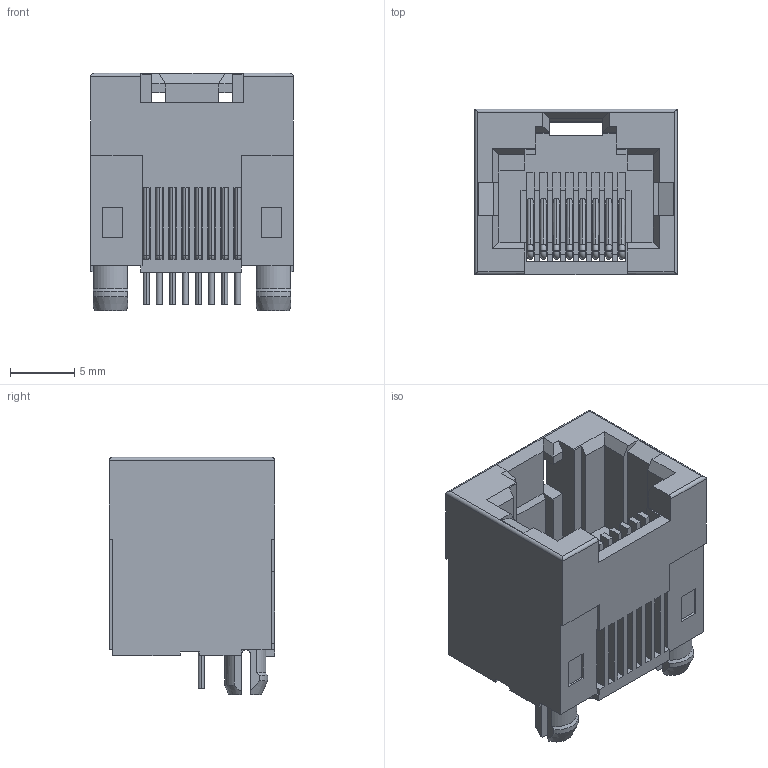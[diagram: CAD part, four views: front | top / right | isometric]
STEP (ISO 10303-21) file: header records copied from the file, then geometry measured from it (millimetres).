
FILE_DESCRIPTION((''),'2;1');
FILE_NAME('DGKYD52TE1188IWA1DY1','2024-01-16T15:02:57',('Administrator'),(''),'CREO PARAMETRIC BY PTC INC, 2019010','CREO PARAMETRIC BY PTC INC, 2019010','');
FILE_SCHEMA(('CONFIG_CONTROL_DESIGN'));
Length unit declared in the file: millimetre
Products named in the file (1): DGKYD52TE1188IWA1DY1
Bounding box: 15.8 x 12.9 x 18.5 mm (x, y, z)
Volume: 1741.3 mm3; surface area: 2831.1 mm2
Topology: 1 solids, 1 shells, 588 faces, 1760 edges, 1127 vertices
Faces by surface type: plane 371, cylinder 131, torus 80, cone 6
Entity records: 20508 total; most frequent: CARTESIAN_POINT 4481, ORIENTED_EDGE 3520, DIRECTION 3204, EDGE_CURVE 1760, VECTOR 1268, LINE 1268, VERTEX_POINT 1127, AXIS2_PLACEMENT_3D 968
